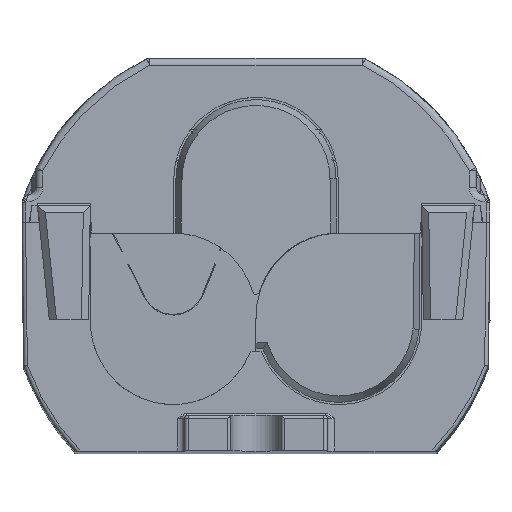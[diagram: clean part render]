
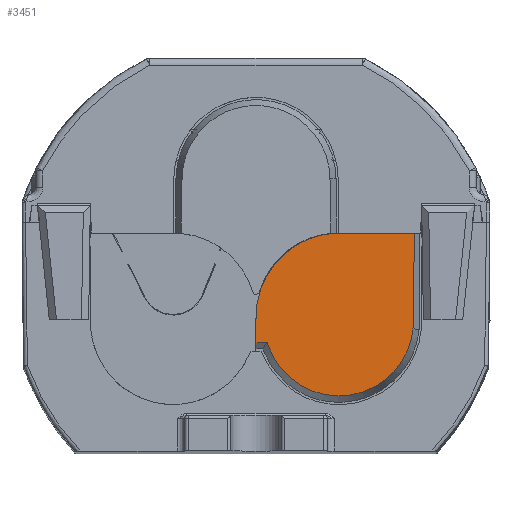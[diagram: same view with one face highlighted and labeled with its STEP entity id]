
A CAD part, top view. The second image highlights one B-rep face of the part: STEP entity #3451.
In plain terms, the highlighted planar face has unit normal (0, 0.009, 1).
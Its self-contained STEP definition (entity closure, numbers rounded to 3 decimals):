
#1374 = VERTEX_POINT ( 'NONE', #1527 ) ;
#1527 = CARTESIAN_POINT ( 'NONE',  ( 11.75, 28.5, 106.213 ) ) ;
#2574 = CARTESIAN_POINT ( 'NONE',  ( 1.655, 12.882, 106.349 ) ) ;
#2972 = VECTOR ( 'NONE', #30194, 1000. ) ;
#3407 = CARTESIAN_POINT ( 'NONE',  ( 14.905, 6.242, 106.407 ) ) ;
#3451 = ADVANCED_FACE ( 'NONE', ( #33278 ), #41053, .T. ) ;
#3981 = CARTESIAN_POINT ( 'NONE',  ( -30.25, 30., 106.2 ) ) ;
#4160 = CARTESIAN_POINT ( 'NONE',  ( 0., 16.75, 106.316 ) ) ;
#4318 = VERTEX_POINT ( 'NONE', #42615 ) ;
#6301 = LINE ( 'NONE', #19519, #6876 ) ;
#6578 = DIRECTION ( 'NONE',  ( 0.015, 1., -0.009 ) ) ;
#6876 = VECTOR ( 'NONE', #6578, 1000. ) ;
#7391 = CARTESIAN_POINT ( 'NONE',  ( 18.051, 7.938, 106.393 ) ) ;
#7496 = EDGE_CURVE ( 'NONE', #1374, #4318, #15346, .T. ) ;
#7666 = CARTESIAN_POINT ( 'NONE',  ( 16.55, 6.968, 106.401 ) ) ;
#9186 = DIRECTION ( 'NONE',  ( 0., -1., 0.009 ) ) ;
#9548 = EDGE_LOOP ( 'NONE', ( #20495, #17367, #40972, #20901, #39490, #40301 ) ) ;
#10490 = DIRECTION ( 'NONE',  ( 1., 0., 0. ) ) ;
#10567 = CARTESIAN_POINT ( 'NONE',  ( 4.79, 8.216, 106.39 ) ) ;
#11603 = CARTESIAN_POINT ( 'NONE',  ( -30.25, 28.5, 106.213 ) ) ;
#11669 = CARTESIAN_POINT ( 'NONE',  ( 17.319, 7.427, 106.397 ) ) ;
#11955 = CARTESIAN_POINT ( 'NONE',  ( 6.781, 6.888, 106.402 ) ) ;
#12231 = CARTESIAN_POINT ( 'NONE',  ( 13.753, 5.941, 106.41 ) ) ;
#12516 = CARTESIAN_POINT ( 'NONE',  ( 20.441, 10.594, 106.369 ) ) ;
#12785 = AXIS2_PLACEMENT_3D ( 'NONE', #3981, #42453, #33857 ) ;
#13725 = EDGE_CURVE ( 'NONE', #28095, #31630, #39089, .T. ) ;
#14568 = CARTESIAN_POINT ( 'NONE',  ( 2.822, 10.464, 106.37 ) ) ;
#14852 = CARTESIAN_POINT ( 'NONE',  ( 3.939, 9.051, 106.383 ) ) ;
#15346 = LINE ( 'NONE', #11603, #27097 ) ;
#15997 = CARTESIAN_POINT ( 'NONE',  ( 11.967, 5.709, 106.412 ) ) ;
#16566 = CARTESIAN_POINT ( 'NONE',  ( 20.745, 11.108, 106.365 ) ) ;
#17118 = CARTESIAN_POINT ( 'NONE',  ( 7.047, 6.755, 106.403 ) ) ;
#17367 = ORIENTED_EDGE ( 'NONE', *, *, #39535, .T. ) ;
#17952 = B_SPLINE_CURVE_WITH_KNOTS ( 'NONE', 3,
 ( #54310, #2574, #55171, #19762, #32402, #32967, #14568, #27842, #45325, #14852, #49972, #10567, #39000, #34417, #43009, #11955, #17118, #21182, #47068, #20622, #29278, #55444, #25523, #33553, #15997, #56592, #51392, #12231, #43292, #3407, #46787, #38713, #7666, #25246, #11669, #7391, #24961, #42433, #56289, #12516, #16566, #51663, #42733, #20898, #25803, #29845 ),
 .UNSPECIFIED., .F., .F.,
 ( 4, 2, 2, 2, 2, 2, 2, 2, 2, 2, 2, 2, 2, 2, 2, 2, 2, 2, 2, 2, 2, 2, 4 ),
 ( 0.125, 0.126, 0.127, 0.129, 0.13, 0.131, 0.133, 0.134, 0.134, 0.136, 0.137, 0.138, 0.14, 0.141, 0.142, 0.144, 0.145, 0.145, 0.147, 0.149, 0.151, 0.153, 0.155 ),
 .UNSPECIFIED. ) ;
#18516 = VERTEX_POINT ( 'NONE', #32704 ) ;
#19519 = CARTESIAN_POINT ( 'NONE',  ( 22.228, 32.048, 106.182 ) ) ;
#19762 = CARTESIAN_POINT ( 'NONE',  ( 1.993, 12.047, 106.357 ) ) ;
#20495 = ORIENTED_EDGE ( 'NONE', *, *, #29032, .F. ) ;
#20622 = CARTESIAN_POINT ( 'NONE',  ( 9.298, 5.969, 106.41 ) ) ;
#20898 = CARTESIAN_POINT ( 'NONE',  ( 21.798, 13.9, 106.34 ) ) ;
#20901 = ORIENTED_EDGE ( 'NONE', *, *, #55142, .T. ) ;
#21182 = CARTESIAN_POINT ( 'NONE',  ( 7.862, 6.389, 106.406 ) ) ;
#21665 = CARTESIAN_POINT ( 'NONE',  ( 0., 23.633, 106.256 ) ) ;
#21930 = CARTESIAN_POINT ( 'NONE',  ( 11.75, 28.5, 106.213 ) ) ;
#22722 = LINE ( 'NONE', #39961, #25473 ) ;
#24961 = CARTESIAN_POINT ( 'NONE',  ( 18.509, 8.319, 106.389 ) ) ;
#25246 = CARTESIAN_POINT ( 'NONE',  ( 17.068, 7.267, 106.398 ) ) ;
#25473 = VECTOR ( 'NONE', #9186, 1000. ) ;
#25523 = CARTESIAN_POINT ( 'NONE',  ( 10.481, 5.774, 106.411 ) ) ;
#25803 = CARTESIAN_POINT ( 'NONE',  ( 21.911, 14.486, 106.335 ) ) ;
#27097 = VECTOR ( 'NONE', #10490, 1000. ) ;
#27842 = CARTESIAN_POINT ( 'NONE',  ( 3.354, 9.738, 106.377 ) ) ;
#28095 = VERTEX_POINT ( 'NONE', #38679 ) ;
#29032 = EDGE_CURVE ( 'NONE', #39143, #1374, #49497, .T. ) ;
#29278 = CARTESIAN_POINT ( 'NONE',  ( 9.594, 5.907, 106.41 ) ) ;
#29845 = CARTESIAN_POINT ( 'NONE',  ( 21.973, 15.086, 106.33 ) ) ;
#30014 = CARTESIAN_POINT ( 'NONE',  ( 4.867, 28.5, 106.213 ) ) ;
#30194 = DIRECTION ( 'NONE',  ( 1., 0., 0. ) ) ;
#30560 = CARTESIAN_POINT ( 'NONE',  ( 0., 16.75, 106.316 ) ) ;
#31630 = VERTEX_POINT ( 'NONE', #46603 ) ;
#32402 = CARTESIAN_POINT ( 'NONE',  ( 2.113, 11.773, 106.359 ) ) ;
#32704 = CARTESIAN_POINT ( 'NONE',  ( 21.973, 15.086, 106.33 ) ) ;
#32967 = CARTESIAN_POINT ( 'NONE',  ( 2.512, 10.973, 106.366 ) ) ;
#33278 = FACE_OUTER_BOUND ( 'NONE', #9548, .T. ) ;
#33553 = CARTESIAN_POINT ( 'NONE',  ( 11.371, 5.705, 106.412 ) ) ;
#33857 = DIRECTION ( 'NONE',  ( 0., -1., 0.009 ) ) ;
#34417 = CARTESIAN_POINT ( 'NONE',  ( 5.999, 7.338, 106.398 ) ) ;
#38679 = CARTESIAN_POINT ( 'NONE',  ( 0., 13.16, 106.347 ) ) ;
#38713 = CARTESIAN_POINT ( 'NONE',  ( 16.282, 6.828, 106.402 ) ) ;
#39000 = CARTESIAN_POINT ( 'NONE',  ( 5.253, 7.842, 106.393 ) ) ;
#39089 = LINE ( 'NONE', #44700, #2972 ) ;
#39143 = VERTEX_POINT ( 'NONE', #4160 ) ;
#39490 = ORIENTED_EDGE ( 'NONE', *, *, #49874, .T. ) ;
#39535 = EDGE_CURVE ( 'NONE', #39143, #28095, #22722, .T. ) ;
#39961 = CARTESIAN_POINT ( 'NONE',  ( 0., 11.668, 106.36 ) ) ;
#40301 = ORIENTED_EDGE ( 'NONE', *, *, #7496, .F. ) ;
#40972 = ORIENTED_EDGE ( 'NONE', *, *, #13725, .T. ) ;
#41053 = PLANE ( 'NONE',  #12785 ) ;
#42433 = CARTESIAN_POINT ( 'NONE',  ( 19.365, 9.166, 106.382 ) ) ;
#42453 = DIRECTION ( 'NONE',  ( 0., 0.009, 1. ) ) ;
#42615 = CARTESIAN_POINT ( 'NONE',  ( 22.175, 28.5, 106.213 ) ) ;
#42733 = CARTESIAN_POINT ( 'NONE',  ( 21.475, 12.755, 106.35 ) ) ;
#43009 = CARTESIAN_POINT ( 'NONE',  ( 6.257, 7.179, 106.399 ) ) ;
#43292 = CARTESIAN_POINT ( 'NONE',  ( 14.043, 6.007, 106.409 ) ) ;
#44700 = CARTESIAN_POINT ( 'NONE',  ( 0.545, 13.16, 106.347 ) ) ;
#45325 = CARTESIAN_POINT ( 'NONE',  ( 3.543, 9.502, 106.379 ) ) ;
#46603 = CARTESIAN_POINT ( 'NONE',  ( 1.542, 13.16, 106.347 ) ) ;
#46787 = CARTESIAN_POINT ( 'NONE',  ( 15.465, 6.446, 106.406 ) ) ;
#47068 = CARTESIAN_POINT ( 'NONE',  ( 8.425, 6.193, 106.408 ) ) ;
#49497 =( BOUNDED_CURVE ( )  B_SPLINE_CURVE ( 3, ( #30560, #21665, #30014, #21930 ),
 .UNSPECIFIED., .F., .F. ) 
 B_SPLINE_CURVE_WITH_KNOTS ( ( 4, 4 ),
 ( 1.571, 3.142 ),
 .UNSPECIFIED. ) 
 CURVE ( )  GEOMETRIC_REPRESENTATION_ITEM ( )  RATIONAL_B_SPLINE_CURVE ( ( 1., 0.805, 0.805, 1. ) ) 
 REPRESENTATION_ITEM ( '' )  );
#49874 = EDGE_CURVE ( 'NONE', #18516, #4318, #6301, .T. ) ;
#49972 = CARTESIAN_POINT ( 'NONE',  ( 4.145, 8.835, 106.385 ) ) ;
#51392 = CARTESIAN_POINT ( 'NONE',  ( 13.164, 5.834, 106.411 ) ) ;
#51663 = CARTESIAN_POINT ( 'NONE',  ( 21.265, 12.195, 106.355 ) ) ;
#54310 = CARTESIAN_POINT ( 'NONE',  ( 1.542, 13.16, 106.347 ) ) ;
#55142 = EDGE_CURVE ( 'NONE', #31630, #18516, #17952, .T. ) ;
#55171 = CARTESIAN_POINT ( 'NONE',  ( 1.768, 12.604, 106.352 ) ) ;
#55444 = CARTESIAN_POINT ( 'NONE',  ( 10.185, 5.81, 106.411 ) ) ;
#56289 = CARTESIAN_POINT ( 'NONE',  ( 19.752, 9.624, 106.378 ) ) ;
#56592 = CARTESIAN_POINT ( 'NONE',  ( 12.865, 5.792, 106.411 ) ) ;
